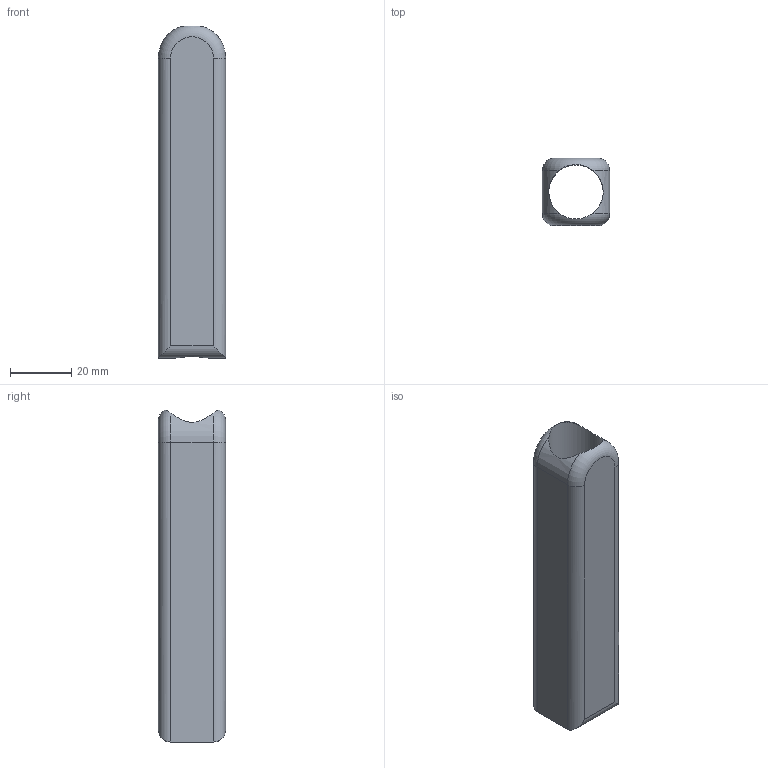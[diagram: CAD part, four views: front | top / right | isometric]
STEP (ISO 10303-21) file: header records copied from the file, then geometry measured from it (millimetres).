
FILE_DESCRIPTION(/* description */ (''),/* implementation_level */ '2;1');
FILE_NAME(/* name */ 'C:/Users/Owner/Desktop/K-CAD Songbird PM4 Centerfire/STEP/Barrels/Barrel Type 1/Barrel Type 1 .7 inch ID.step',/* time_stamp */ '2020-12-05T21:51:27-05:00',/* author */ (''),/* organization */ (''),/* preprocessor_version */ 'ST-DEVELOPER v18.1',/* originating_system */ 'Autodesk Translation Framework v9.3.0.1241',/* authorisation */ '');
FILE_SCHEMA (('AUTOMOTIVE_DESIGN { 1 0 10303 214 3 1 1 }'));
Length unit declared in the file: inch
Products named in the file (1): Barrel Type 1 .7 inch ID
Bounding box: 22 x 22 x 108.52 mm (x, y, z)
Volume: 23112.9 mm3; surface area: 14797.3 mm2
Topology: 1 solids, 1 shells, 17 faces, 43 edges, 26 vertices
Faces by surface type: cylinder 9, plane 6, torus 2
Full cylindrical faces by diameter (mm): 17.78 x1
Entity records: 629 total; most frequent: CARTESIAN_POINT 174, DIRECTION 89, ORIENTED_EDGE 86, EDGE_CURVE 43, AXIS2_PLACEMENT_3D 35, VERTEX_POINT 26, LINE 19, VECTOR 19
